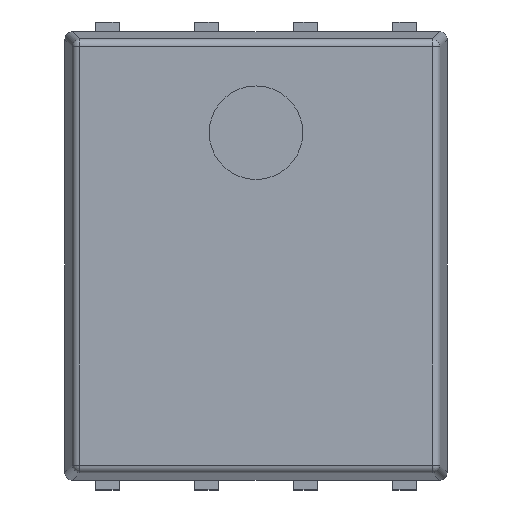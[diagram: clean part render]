
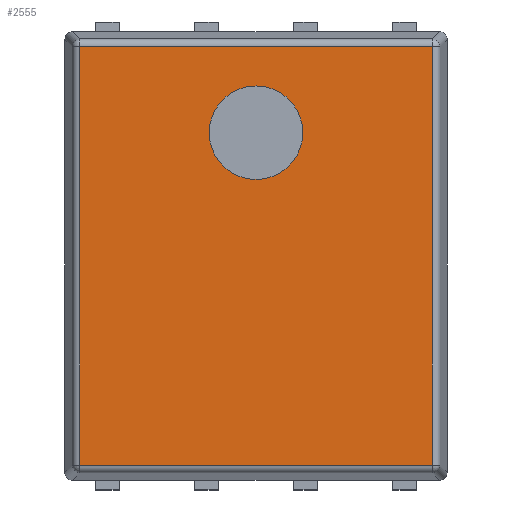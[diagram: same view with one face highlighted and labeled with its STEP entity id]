
A CAD part, top view. The second image highlights one B-rep face of the part: STEP entity #2555.
In plain terms, the highlighted planar face has unit normal (0, 0, 1).
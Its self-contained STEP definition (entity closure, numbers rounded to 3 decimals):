
#94=CIRCLE('',#2795,0.6);
#732=ORIENTED_EDGE('',*,*,#1156,.T.);
#733=ORIENTED_EDGE('',*,*,#1157,.T.);
#734=ORIENTED_EDGE('',*,*,#1158,.T.);
#735=ORIENTED_EDGE('',*,*,#1159,.T.);
#736=ORIENTED_EDGE('',*,*,#1160,.T.);
#1156=EDGE_CURVE('',#1418,#1418,#94,.T.);
#1157=EDGE_CURVE('',#1419,#1420,#1724,.F.);
#1158=EDGE_CURVE('',#1420,#1421,#1725,.F.);
#1159=EDGE_CURVE('',#1421,#1422,#1726,.F.);
#1160=EDGE_CURVE('',#1422,#1419,#1727,.F.);
#1418=VERTEX_POINT('',#4205);
#1419=VERTEX_POINT('',#4207);
#1420=VERTEX_POINT('',#4208);
#1421=VERTEX_POINT('',#4210);
#1422=VERTEX_POINT('',#4212);
#1724=LINE('',#4206,#2032);
#1725=LINE('',#4209,#2033);
#1726=LINE('',#4211,#2034);
#1727=LINE('',#4213,#2035);
#2032=VECTOR('',#3434,1000.);
#2033=VECTOR('',#3435,1000.);
#2034=VECTOR('',#3436,1000.);
#2035=VECTOR('',#3437,1000.);
#2164=EDGE_LOOP('',(#732));
#2165=EDGE_LOOP('',(#733,#734,#735,#736));
#2306=FACE_BOUND('',#2164,.T.);
#2307=FACE_BOUND('',#2165,.T.);
#2432=PLANE('',#2794);
#2555=ADVANCED_FACE('',(#2306,#2307),#2432,.T.);
#2794=AXIS2_PLACEMENT_3D('',#4203,#3430,#3431);
#2795=AXIS2_PLACEMENT_3D('',#4204,#3432,#3433);
#3430=DIRECTION('',(0.,0.,1.));
#3431=DIRECTION('',(1.,0.,0.));
#3432=DIRECTION('',(0.,0.,-1.));
#3433=DIRECTION('',(0.,1.,0.));
#3434=DIRECTION('',(0.,-1.,0.));
#3435=DIRECTION('',(1.,0.,0.));
#3436=DIRECTION('',(0.,1.,0.));
#3437=DIRECTION('',(-1.,0.,0.));
#4203=CARTESIAN_POINT('',(0.,0.,0.75));
#4204=CARTESIAN_POINT('',(0.,1.579,0.75));
#4205=CARTESIAN_POINT('',(0.,2.179,0.75));
#4206=CARTESIAN_POINT('',(2.258,2.77,0.75));
#4207=CARTESIAN_POINT('',(2.258,-2.683,0.75));
#4208=CARTESIAN_POINT('',(2.258,2.683,0.75));
#4209=CARTESIAN_POINT('',(-2.345,2.683,0.75));
#4210=CARTESIAN_POINT('',(-2.258,2.683,0.75));
#4211=CARTESIAN_POINT('',(-2.258,-2.77,0.75));
#4212=CARTESIAN_POINT('',(-2.258,-2.683,0.75));
#4213=CARTESIAN_POINT('',(2.345,-2.683,0.75));
